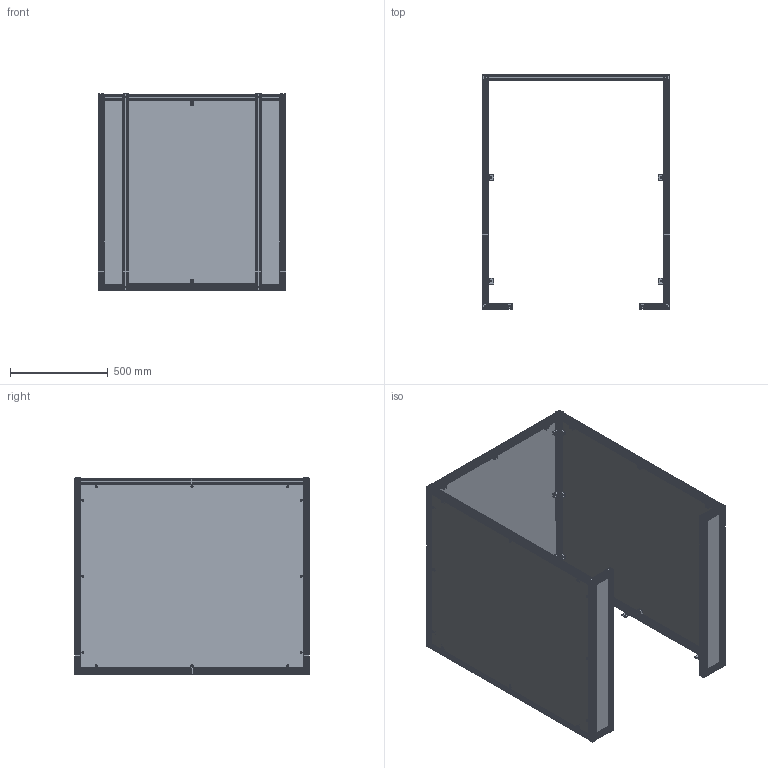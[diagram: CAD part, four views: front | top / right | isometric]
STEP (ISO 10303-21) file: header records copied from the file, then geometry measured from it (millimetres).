
FILE_DESCRIPTION(/* description */ ('Schutzeinhausung, 1200x960x1000 (TxBxH)'),/* implementation_level */ '2;1');
FILE_NAME(/* name */ 'P:\CAD-Daten-für-Kunden\13_Umhausungen\Schutzeinhausung_SE120_ANR35830.stp',/* time_stamp */ '2022-05-09T10:56:22+02:00',/* author */ ('tse'),/* organization */ (''),/* preprocessor_version */ 'ST-DEVELOPER v18',/* originating_system */ 'Autodesk Inventor 2020',/* authorisation */ '');
FILE_SCHEMA (('AUTOMOTIVE_DESIGN { 1 0 10303 214 3 1 1 }'));
Products named in the file (6): 35846; 35846-1; Schutzeinhausung Scheibe 1200x1000; Schutzeinhausung Scheibe 960x1000; Schutzeinhausung Scheibe 155x1000; Schutzeinhausung - Befestigungswinkel
Assembly tree (10 placements, depth 2):
  35846
    35846-1
    Schutzeinhausung Scheibe 1200x1000  x2
    Schutzeinhausung Scheibe 960x1000
    Schutzeinhausung Scheibe 155x1000  x2
    Schutzeinhausung - Befestigungswinkel  x4
Bounding box: 960 x 1200 x 1003 mm (x, y, z)
Volume: 17624280.3 mm3; surface area: 11196921.6 mm2
Topology: 10 solids, 10 shells, 5194 faces, 15455 edges, 9866 vertices
Faces by surface type: plane 3995, cylinder 1011, cone 100, torus 60, sphere 28
Full cylindrical faces by diameter (mm): 5 x22, 5.5 x36, 6 x96, 7 x44, 10.5 x60
Entity records: 169942 total; most frequent: CARTESIAN_POINT 33174, ORIENTED_EDGE 29874, DIRECTION 27119, EDGE_CURVE 14937, LINE 11751, VECTOR 11751, VERTEX_POINT 9536, AXIS2_PLACEMENT_3D 7684
